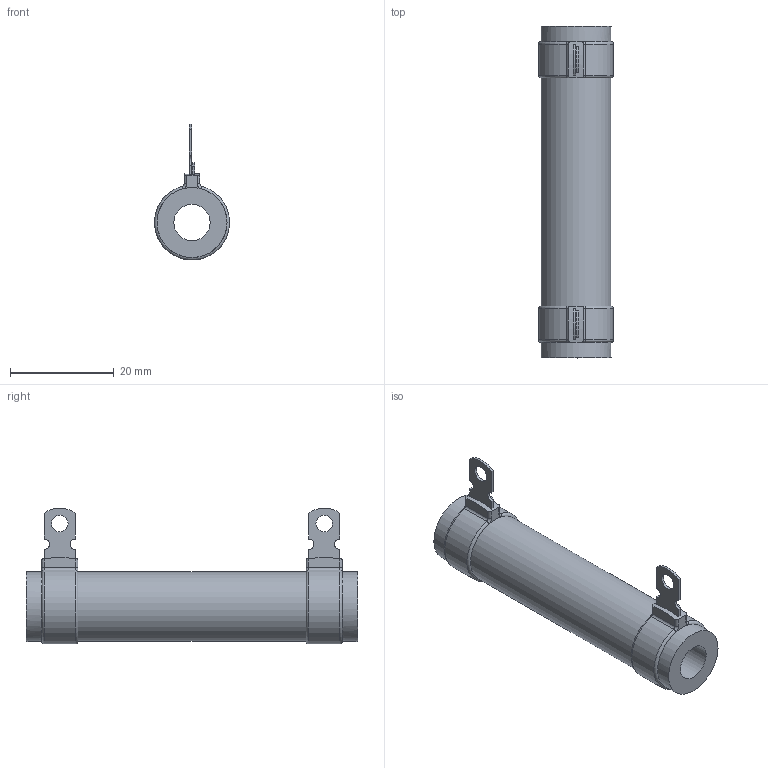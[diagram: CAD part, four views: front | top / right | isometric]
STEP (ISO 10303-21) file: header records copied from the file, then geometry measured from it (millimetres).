
FILE_DESCRIPTION(/* description */ (''),/* implementation_level */ '2;1');
FILE_NAME(/* name */ 'C:\_Vault\Dati\CATALOGO\RCA-RSA\25-1000\CA0026.stp',/* time_stamp */ '2014-01-22T14:32:55+01:00',/* author */ ('stefano'),/* organization */ (''),/* preprocessor_version */ 'ST-DEVELOPER v15.2',/* originating_system */ 'Autodesk Inventor 2014',/* authorisation */ '');
FILE_SCHEMA (('AUTOMOTIVE_DESIGN { 1 0 10303 214 3 1 1 }'));
Length unit declared in the file: millimetre
Products named in the file (1): CA0026
Bounding box: 14.45 x 64 x 26.22 mm (x, y, z)
Volume: 7141.2 mm3; surface area: 4756.4 mm2
Topology: 1 solids, 1 shells, 77 faces, 184 edges, 114 vertices
Faces by surface type: plane 35, cylinder 30, torus 12
Full cylindrical faces by diameter (mm): 3.2 x2, 7 x1, 13.5 x3
Entity records: 2371 total; most frequent: CARTESIAN_POINT 438, DIRECTION 406, ORIENTED_EDGE 352, EDGE_CURVE 176, AXIS2_PLACEMENT_3D 160, VERTEX_POINT 112, EDGE_LOOP 94, LINE 86
